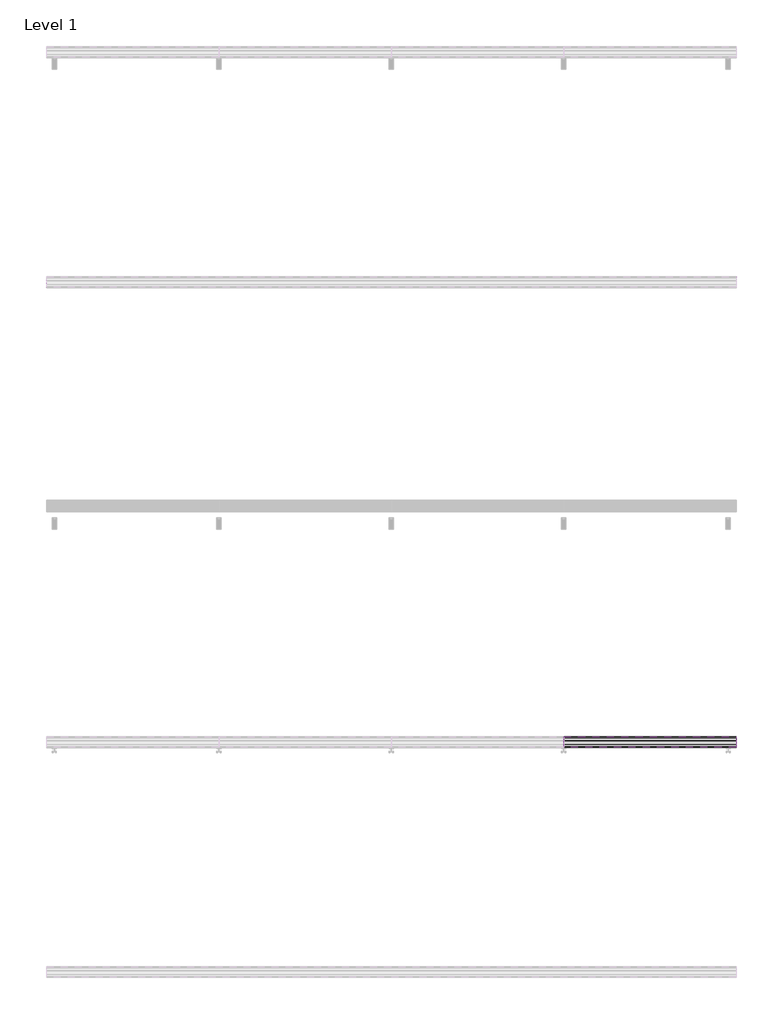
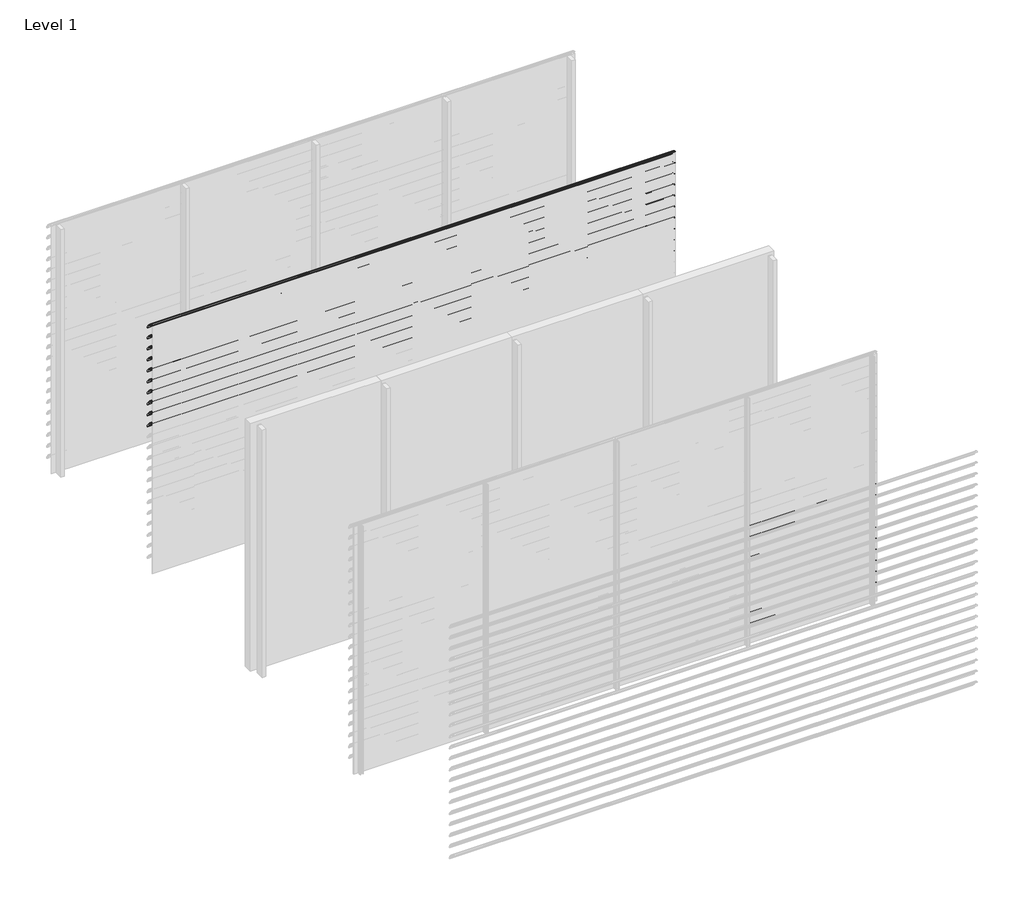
# One storey, part 19 of 57: 20 proxies.
"""IFC4 building model written with IfcOpenShell, lengths in millimetres."""

from ifc_helpers import new_model, si_unit, point, frame, frame_2d, origin, place, context, project, spatial, polyline, circle_curve, trimmed, segment, composite_curve, outline, extrude, element, save

model = new_model("IFC4")

# Units and contexts
model_context = context("Model", 3, world=origin())
ifc_project = project(units=[si_unit("LENGTHUNIT", "METRE", prefix="MILLI")], contexts=[model_context])

# Site, building, storey
site = spatial("IfcSite", under=ifc_project)
building = spatial("IfcBuilding", under=site)
storey = spatial("IfcBuildingStorey", under=building, Name="Level 1", Elevation=0.0)

# Proxies
placement = place(None, origin())
element("IfcBuildingElementProxy", 1, Name="Wall Sweeps", at=placement, inside=storey, context=model_context, shape_type="SweptSolid", body=[
    extrude(outline(composite_curve([segment(trimmed(circle_curve(frame_2d((-37993.7822526, 3016.4913792)), 4.2177474), [point((-37989.6985606, 3017.5462976))], [point((-37993.7822526, 3020.7091266))], False, "CARTESIAN"), True, "CONTINUOUS"), segment(trimmed(circle_curve(frame_2d((-38018.7150834, 2918.2536312)), 105.4456002), [point((-37993.7822526, 3020.7091266))], [point((-37971.7914298, 3012.6832099))], False, "CARTESIAN"), True, "CONTINUOUS"), segment(trimmed(circle_curve(frame_2d((-38061.7199745, 2864.0352476)), 173.7335887), [point((-37971.7914298, 3012.6832099))], [point((-37913.0720121, 2953.9637922))], False, "CARTESIAN"), True, "CONTINUOUS"), segment(trimmed(circle_curve(frame_2d((-38004.9297178, 2902.1860314)), 105.4456002), [point((-37913.0720121, 2953.9637922))], [point((-37903.6249616, 2931.4455765))], False, "CARTESIAN"), True, "CONTINUOUS"), segment(trimmed(circle_curve(frame_2d((-37907.809737, 2930.3307305)), 4.3307305), [point((-37903.6249616, 2931.4455765))], [point((-37909.0769196, 2926.189538))], False, "CARTESIAN"), True, "CONTINUOUS"), segment(polyline([(-37909.0769196, 2926.189538), (-37934.7401984, 2950.9722783)]), True, "CONTINUOUS"), segment(trimmed(circle_curve(frame_2d((-37931.3879574, 2953.2977626)), 4.079877), [point((-37934.7401984, 2950.9722783))], [point((-37930.7310597, 2957.3244091))], False, "CARTESIAN"), True, "CONTINUOUS"), segment(trimmed(circle_curve(frame_2d((-38014.6665585, 2935.2544323)), 86.7885467), [point((-37930.7310597, 2957.3244091))], [point((-37942.3028351, 2983.1683485))], True, "CARTESIAN"), True, "CONTINUOUS"), segment(polyline([(-37942.3028351, 2983.1683485), (-37940.7230099, 2985.9046861)]), True, "CONTINUOUS"), segment(trimmed(circle_curve(frame_2d((-38061.7199745, 2864.0352476)), 171.7335887), [point((-37940.7230099, 2985.9046861))], [point((-37972.7555872, 3010.9289618))], True, "CARTESIAN"), True, "CONTINUOUS"), segment(trimmed(circle_curve(frame_2d((-38018.7150834, 2918.2536312)), 103.4456002), [point((-37972.7555872, 3010.9289618))], [point((-37989.6985606, 3017.5462976))], True, "CARTESIAN"), True, "CONTINUOUS")], self_intersect=False)), frame((0.0, 0.0, 0.0), z_axis=(1.0, 0.0, 0.0), x_axis=(0.0, 1.0, 0.0)), (0.0, 0.0, 1.0), 6000.0),
])
element("IfcBuildingElementProxy", 2, Name="Wall Sweeps", at=placement, inside=storey, context=model_context, shape_type="SweptSolid", body=[
    extrude(outline(composite_curve([segment(trimmed(circle_curve(frame_2d((-37993.7822526, 2883.4913792)), 4.2177474), [point((-37989.6985606, 2884.5462976))], [point((-37993.7822526, 2887.7091266))], False, "CARTESIAN"), True, "CONTINUOUS"), segment(trimmed(circle_curve(frame_2d((-38018.7150834, 2785.2536312)), 105.4456002), [point((-37993.7822526, 2887.7091266))], [point((-37971.7914298, 2879.6832099))], False, "CARTESIAN"), True, "CONTINUOUS"), segment(trimmed(circle_curve(frame_2d((-38061.7199745, 2731.0352476)), 173.7335887), [point((-37971.7914298, 2879.6832099))], [point((-37913.0720121, 2820.9637922))], False, "CARTESIAN"), True, "CONTINUOUS"), segment(trimmed(circle_curve(frame_2d((-38004.9297178, 2769.1860314)), 105.4456002), [point((-37913.0720121, 2820.9637922))], [point((-37903.6249616, 2798.4455765))], False, "CARTESIAN"), True, "CONTINUOUS"), segment(trimmed(circle_curve(frame_2d((-37907.809737, 2797.3307305)), 4.3307305), [point((-37903.6249616, 2798.4455765))], [point((-37909.0769196, 2793.189538))], False, "CARTESIAN"), True, "CONTINUOUS"), segment(polyline([(-37909.0769196, 2793.189538), (-37934.7401984, 2817.9722783)]), True, "CONTINUOUS"), segment(trimmed(circle_curve(frame_2d((-37931.3879574, 2820.2977626)), 4.079877), [point((-37934.7401984, 2817.9722783))], [point((-37930.7310597, 2824.3244091))], False, "CARTESIAN"), True, "CONTINUOUS"), segment(trimmed(circle_curve(frame_2d((-38014.6665585, 2802.2544323)), 86.7885467), [point((-37930.7310597, 2824.3244091))], [point((-37942.3028351, 2850.1683485))], True, "CARTESIAN"), True, "CONTINUOUS"), segment(polyline([(-37942.3028351, 2850.1683485), (-37940.7230099, 2852.9046861)]), True, "CONTINUOUS"), segment(trimmed(circle_curve(frame_2d((-38061.7199745, 2731.0352476)), 171.7335887), [point((-37940.7230099, 2852.9046861))], [point((-37972.7555872, 2877.9289618))], True, "CARTESIAN"), True, "CONTINUOUS"), segment(trimmed(circle_curve(frame_2d((-38018.7150834, 2785.2536312)), 103.4456002), [point((-37972.7555872, 2877.9289618))], [point((-37989.6985606, 2884.5462976))], True, "CARTESIAN"), True, "CONTINUOUS")], self_intersect=False)), frame((0.0, 0.0, 0.0), z_axis=(1.0, 0.0, 0.0), x_axis=(0.0, 1.0, 0.0)), (0.0, 0.0, 1.0), 6000.0),
])
element("IfcBuildingElementProxy", 3, Name="Wall Sweeps", at=placement, inside=storey, context=model_context, shape_type="SweptSolid", body=[
    extrude(outline(composite_curve([segment(trimmed(circle_curve(frame_2d((-37993.7822526, 2750.4913792)), 4.2177474), [point((-37989.6985606, 2751.5462976))], [point((-37993.7822526, 2754.7091266))], False, "CARTESIAN"), True, "CONTINUOUS"), segment(trimmed(circle_curve(frame_2d((-38018.7150834, 2652.2536312)), 105.4456002), [point((-37993.7822526, 2754.7091266))], [point((-37971.7914298, 2746.6832099))], False, "CARTESIAN"), True, "CONTINUOUS"), segment(trimmed(circle_curve(frame_2d((-38061.7199745, 2598.0352476)), 173.7335887), [point((-37971.7914298, 2746.6832099))], [point((-37913.0720121, 2687.9637922))], False, "CARTESIAN"), True, "CONTINUOUS"), segment(trimmed(circle_curve(frame_2d((-38004.9297178, 2636.1860314)), 105.4456002), [point((-37913.0720121, 2687.9637922))], [point((-37903.6249616, 2665.4455765))], False, "CARTESIAN"), True, "CONTINUOUS"), segment(trimmed(circle_curve(frame_2d((-37907.809737, 2664.3307305)), 4.3307305), [point((-37903.6249616, 2665.4455765))], [point((-37909.0769196, 2660.189538))], False, "CARTESIAN"), True, "CONTINUOUS"), segment(polyline([(-37909.0769196, 2660.189538), (-37934.7401984, 2684.9722783)]), True, "CONTINUOUS"), segment(trimmed(circle_curve(frame_2d((-37931.3879574, 2687.2977626)), 4.079877), [point((-37934.7401984, 2684.9722783))], [point((-37930.7310597, 2691.3244091))], False, "CARTESIAN"), True, "CONTINUOUS"), segment(trimmed(circle_curve(frame_2d((-38014.6665585, 2669.2544323)), 86.7885467), [point((-37930.7310597, 2691.3244091))], [point((-37942.3028351, 2717.1683485))], True, "CARTESIAN"), True, "CONTINUOUS"), segment(polyline([(-37942.3028351, 2717.1683485), (-37940.7230099, 2719.9046861)]), True, "CONTINUOUS"), segment(trimmed(circle_curve(frame_2d((-38061.7199745, 2598.0352476)), 171.7335887), [point((-37940.7230099, 2719.9046861))], [point((-37972.7555872, 2744.9289618))], True, "CARTESIAN"), True, "CONTINUOUS"), segment(trimmed(circle_curve(frame_2d((-38018.7150834, 2652.2536312)), 103.4456002), [point((-37972.7555872, 2744.9289618))], [point((-37989.6985606, 2751.5462976))], True, "CARTESIAN"), True, "CONTINUOUS")], self_intersect=False)), frame((0.0, 0.0, 0.0), z_axis=(1.0, 0.0, 0.0), x_axis=(0.0, 1.0, 0.0)), (0.0, 0.0, 1.0), 6000.0),
])
element("IfcBuildingElementProxy", 4, Name="Wall Sweeps", at=placement, inside=storey, context=model_context, shape_type="SweptSolid", body=[
    extrude(outline(composite_curve([segment(trimmed(circle_curve(frame_2d((-37993.7822526, 2617.4913792)), 4.2177474), [point((-37989.6985606, 2618.5462976))], [point((-37993.7822526, 2621.7091266))], False, "CARTESIAN"), True, "CONTINUOUS"), segment(trimmed(circle_curve(frame_2d((-38018.7150834, 2519.2536312)), 105.4456002), [point((-37993.7822526, 2621.7091266))], [point((-37971.7914298, 2613.6832099))], False, "CARTESIAN"), True, "CONTINUOUS"), segment(trimmed(circle_curve(frame_2d((-38061.7199745, 2465.0352476)), 173.7335887), [point((-37971.7914298, 2613.6832099))], [point((-37913.0720121, 2554.9637922))], False, "CARTESIAN"), True, "CONTINUOUS"), segment(trimmed(circle_curve(frame_2d((-38004.9297178, 2503.1860314)), 105.4456002), [point((-37913.0720121, 2554.9637922))], [point((-37903.6249616, 2532.4455765))], False, "CARTESIAN"), True, "CONTINUOUS"), segment(trimmed(circle_curve(frame_2d((-37907.809737, 2531.3307305)), 4.3307305), [point((-37903.6249616, 2532.4455765))], [point((-37909.0769196, 2527.189538))], False, "CARTESIAN"), True, "CONTINUOUS"), segment(polyline([(-37909.0769196, 2527.189538), (-37934.7401984, 2551.9722783)]), True, "CONTINUOUS"), segment(trimmed(circle_curve(frame_2d((-37931.3879574, 2554.2977626)), 4.079877), [point((-37934.7401984, 2551.9722783))], [point((-37930.7310597, 2558.3244091))], False, "CARTESIAN"), True, "CONTINUOUS"), segment(trimmed(circle_curve(frame_2d((-38014.6665585, 2536.2544323)), 86.7885467), [point((-37930.7310597, 2558.3244091))], [point((-37942.3028351, 2584.1683485))], True, "CARTESIAN"), True, "CONTINUOUS"), segment(polyline([(-37942.3028351, 2584.1683485), (-37940.7230099, 2586.9046861)]), True, "CONTINUOUS"), segment(trimmed(circle_curve(frame_2d((-38061.7199745, 2465.0352476)), 171.7335887), [point((-37940.7230099, 2586.9046861))], [point((-37972.7555872, 2611.9289618))], True, "CARTESIAN"), True, "CONTINUOUS"), segment(trimmed(circle_curve(frame_2d((-38018.7150834, 2519.2536312)), 103.4456002), [point((-37972.7555872, 2611.9289618))], [point((-37989.6985606, 2618.5462976))], True, "CARTESIAN"), True, "CONTINUOUS")], self_intersect=False)), frame((0.0, 0.0, 0.0), z_axis=(1.0, 0.0, 0.0), x_axis=(0.0, 1.0, 0.0)), (0.0, 0.0, 1.0), 6000.0),
])
element("IfcBuildingElementProxy", 5, Name="Wall Sweeps", at=placement, inside=storey, context=model_context, shape_type="SweptSolid", body=[
    extrude(outline(composite_curve([segment(trimmed(circle_curve(frame_2d((-37993.7822526, 2484.4913792)), 4.2177474), [point((-37989.6985606, 2485.5462976))], [point((-37993.7822526, 2488.7091266))], False, "CARTESIAN"), True, "CONTINUOUS"), segment(trimmed(circle_curve(frame_2d((-38018.7150834, 2386.2536312)), 105.4456002), [point((-37993.7822526, 2488.7091266))], [point((-37971.7914298, 2480.6832099))], False, "CARTESIAN"), True, "CONTINUOUS"), segment(trimmed(circle_curve(frame_2d((-38061.7199745, 2332.0352476)), 173.7335887), [point((-37971.7914298, 2480.6832099))], [point((-37913.0720121, 2421.9637922))], False, "CARTESIAN"), True, "CONTINUOUS"), segment(trimmed(circle_curve(frame_2d((-38004.9297178, 2370.1860314)), 105.4456002), [point((-37913.0720121, 2421.9637922))], [point((-37903.6249616, 2399.4455765))], False, "CARTESIAN"), True, "CONTINUOUS"), segment(trimmed(circle_curve(frame_2d((-37907.809737, 2398.3307305)), 4.3307305), [point((-37903.6249616, 2399.4455765))], [point((-37909.0769196, 2394.189538))], False, "CARTESIAN"), True, "CONTINUOUS"), segment(polyline([(-37909.0769196, 2394.189538), (-37934.7401984, 2418.9722783)]), True, "CONTINUOUS"), segment(trimmed(circle_curve(frame_2d((-37931.3879574, 2421.2977626)), 4.079877), [point((-37934.7401984, 2418.9722783))], [point((-37930.7310597, 2425.3244091))], False, "CARTESIAN"), True, "CONTINUOUS"), segment(trimmed(circle_curve(frame_2d((-38014.6665585, 2403.2544323)), 86.7885467), [point((-37930.7310597, 2425.3244091))], [point((-37942.3028351, 2451.1683485))], True, "CARTESIAN"), True, "CONTINUOUS"), segment(polyline([(-37942.3028351, 2451.1683485), (-37940.7230099, 2453.9046861)]), True, "CONTINUOUS"), segment(trimmed(circle_curve(frame_2d((-38061.7199745, 2332.0352476)), 171.7335887), [point((-37940.7230099, 2453.9046861))], [point((-37972.7555872, 2478.9289618))], True, "CARTESIAN"), True, "CONTINUOUS"), segment(trimmed(circle_curve(frame_2d((-38018.7150834, 2386.2536312)), 103.4456002), [point((-37972.7555872, 2478.9289618))], [point((-37989.6985606, 2485.5462976))], True, "CARTESIAN"), True, "CONTINUOUS")], self_intersect=False)), frame((0.0, 0.0, 0.0), z_axis=(1.0, 0.0, 0.0), x_axis=(0.0, 1.0, 0.0)), (0.0, 0.0, 1.0), 6000.0),
])
element("IfcBuildingElementProxy", 6, Name="Wall Sweeps", at=placement, inside=storey, context=model_context, shape_type="SweptSolid", body=[
    extrude(outline(composite_curve([segment(trimmed(circle_curve(frame_2d((-37993.7822526, 2351.4913792)), 4.2177474), [point((-37989.6985606, 2352.5462976))], [point((-37993.7822526, 2355.7091266))], False, "CARTESIAN"), True, "CONTINUOUS"), segment(trimmed(circle_curve(frame_2d((-38018.7150834, 2253.2536312)), 105.4456002), [point((-37993.7822526, 2355.7091266))], [point((-37971.7914298, 2347.6832099))], False, "CARTESIAN"), True, "CONTINUOUS"), segment(trimmed(circle_curve(frame_2d((-38061.7199745, 2199.0352476)), 173.7335887), [point((-37971.7914298, 2347.6832099))], [point((-37913.0720121, 2288.9637922))], False, "CARTESIAN"), True, "CONTINUOUS"), segment(trimmed(circle_curve(frame_2d((-38004.9297178, 2237.1860314)), 105.4456002), [point((-37913.0720121, 2288.9637922))], [point((-37903.6249616, 2266.4455765))], False, "CARTESIAN"), True, "CONTINUOUS"), segment(trimmed(circle_curve(frame_2d((-37907.809737, 2265.3307305)), 4.3307305), [point((-37903.6249616, 2266.4455765))], [point((-37909.0769196, 2261.189538))], False, "CARTESIAN"), True, "CONTINUOUS"), segment(polyline([(-37909.0769196, 2261.189538), (-37934.7401984, 2285.9722783)]), True, "CONTINUOUS"), segment(trimmed(circle_curve(frame_2d((-37931.3879574, 2288.2977626)), 4.079877), [point((-37934.7401984, 2285.9722783))], [point((-37930.7310597, 2292.3244091))], False, "CARTESIAN"), True, "CONTINUOUS"), segment(trimmed(circle_curve(frame_2d((-38014.6665585, 2270.2544323)), 86.7885467), [point((-37930.7310597, 2292.3244091))], [point((-37942.3028351, 2318.1683485))], True, "CARTESIAN"), True, "CONTINUOUS"), segment(polyline([(-37942.3028351, 2318.1683485), (-37940.7230099, 2320.9046861)]), True, "CONTINUOUS"), segment(trimmed(circle_curve(frame_2d((-38061.7199745, 2199.0352476)), 171.7335887), [point((-37940.7230099, 2320.9046861))], [point((-37972.7555872, 2345.9289618))], True, "CARTESIAN"), True, "CONTINUOUS"), segment(trimmed(circle_curve(frame_2d((-38018.7150834, 2253.2536312)), 103.4456002), [point((-37972.7555872, 2345.9289618))], [point((-37989.6985606, 2352.5462976))], True, "CARTESIAN"), True, "CONTINUOUS")], self_intersect=False)), frame((0.0, 0.0, 0.0), z_axis=(1.0, 0.0, 0.0), x_axis=(0.0, 1.0, 0.0)), (0.0, 0.0, 1.0), 6000.0),
])
element("IfcBuildingElementProxy", 7, Name="Wall Sweeps", at=placement, inside=storey, context=model_context, shape_type="SweptSolid", body=[
    extrude(outline(composite_curve([segment(trimmed(circle_curve(frame_2d((-37993.7822526, 2218.4913792)), 4.2177474), [point((-37989.6985606, 2219.5462976))], [point((-37993.7822526, 2222.7091266))], False, "CARTESIAN"), True, "CONTINUOUS"), segment(trimmed(circle_curve(frame_2d((-38018.7150834, 2120.2536312)), 105.4456002), [point((-37993.7822526, 2222.7091266))], [point((-37971.7914298, 2214.6832099))], False, "CARTESIAN"), True, "CONTINUOUS"), segment(trimmed(circle_curve(frame_2d((-38061.7199745, 2066.0352476)), 173.7335887), [point((-37971.7914298, 2214.6832099))], [point((-37913.0720121, 2155.9637922))], False, "CARTESIAN"), True, "CONTINUOUS"), segment(trimmed(circle_curve(frame_2d((-38004.9297178, 2104.1860314)), 105.4456002), [point((-37913.0720121, 2155.9637922))], [point((-37903.6249616, 2133.4455765))], False, "CARTESIAN"), True, "CONTINUOUS"), segment(trimmed(circle_curve(frame_2d((-37907.809737, 2132.3307305)), 4.3307305), [point((-37903.6249616, 2133.4455765))], [point((-37909.0769196, 2128.189538))], False, "CARTESIAN"), True, "CONTINUOUS"), segment(polyline([(-37909.0769196, 2128.189538), (-37934.7401984, 2152.9722783)]), True, "CONTINUOUS"), segment(trimmed(circle_curve(frame_2d((-37931.3879574, 2155.2977626)), 4.079877), [point((-37934.7401984, 2152.9722783))], [point((-37930.7310597, 2159.3244091))], False, "CARTESIAN"), True, "CONTINUOUS"), segment(trimmed(circle_curve(frame_2d((-38014.6665585, 2137.2544323)), 86.7885467), [point((-37930.7310597, 2159.3244091))], [point((-37942.3028351, 2185.1683485))], True, "CARTESIAN"), True, "CONTINUOUS"), segment(polyline([(-37942.3028351, 2185.1683485), (-37940.7230099, 2187.9046861)]), True, "CONTINUOUS"), segment(trimmed(circle_curve(frame_2d((-38061.7199745, 2066.0352476)), 171.7335887), [point((-37940.7230099, 2187.9046861))], [point((-37972.7555872, 2212.9289618))], True, "CARTESIAN"), True, "CONTINUOUS"), segment(trimmed(circle_curve(frame_2d((-38018.7150834, 2120.2536312)), 103.4456002), [point((-37972.7555872, 2212.9289618))], [point((-37989.6985606, 2219.5462976))], True, "CARTESIAN"), True, "CONTINUOUS")], self_intersect=False)), frame((0.0, 0.0, 0.0), z_axis=(1.0, 0.0, 0.0), x_axis=(0.0, 1.0, 0.0)), (0.0, 0.0, 1.0), 6000.0),
])
element("IfcBuildingElementProxy", 8, Name="Wall Sweeps", at=placement, inside=storey, context=model_context, shape_type="SweptSolid", body=[
    extrude(outline(composite_curve([segment(trimmed(circle_curve(frame_2d((-37993.7822526, 2085.4913792)), 4.2177474), [point((-37989.6985606, 2086.5462976))], [point((-37993.7822526, 2089.7091266))], False, "CARTESIAN"), True, "CONTINUOUS"), segment(trimmed(circle_curve(frame_2d((-38018.7150834, 1987.2536312)), 105.4456002), [point((-37993.7822526, 2089.7091266))], [point((-37971.7914298, 2081.6832099))], False, "CARTESIAN"), True, "CONTINUOUS"), segment(trimmed(circle_curve(frame_2d((-38061.7199745, 1933.0352476)), 173.7335887), [point((-37971.7914298, 2081.6832099))], [point((-37913.0720121, 2022.9637922))], False, "CARTESIAN"), True, "CONTINUOUS"), segment(trimmed(circle_curve(frame_2d((-38004.9297178, 1971.1860314)), 105.4456002), [point((-37913.0720121, 2022.9637922))], [point((-37903.6249616, 2000.4455765))], False, "CARTESIAN"), True, "CONTINUOUS"), segment(trimmed(circle_curve(frame_2d((-37907.809737, 1999.3307305)), 4.3307305), [point((-37903.6249616, 2000.4455765))], [point((-37909.0769196, 1995.189538))], False, "CARTESIAN"), True, "CONTINUOUS"), segment(polyline([(-37909.0769196, 1995.189538), (-37934.7401984, 2019.9722783)]), True, "CONTINUOUS"), segment(trimmed(circle_curve(frame_2d((-37931.3879574, 2022.2977626)), 4.079877), [point((-37934.7401984, 2019.9722783))], [point((-37930.7310597, 2026.3244091))], False, "CARTESIAN"), True, "CONTINUOUS"), segment(trimmed(circle_curve(frame_2d((-38014.6665585, 2004.2544323)), 86.7885467), [point((-37930.7310597, 2026.3244091))], [point((-37942.3028351, 2052.1683485))], True, "CARTESIAN"), True, "CONTINUOUS"), segment(polyline([(-37942.3028351, 2052.1683485), (-37940.7230099, 2054.9046861)]), True, "CONTINUOUS"), segment(trimmed(circle_curve(frame_2d((-38061.7199745, 1933.0352476)), 171.7335887), [point((-37940.7230099, 2054.9046861))], [point((-37972.7555872, 2079.9289618))], True, "CARTESIAN"), True, "CONTINUOUS"), segment(trimmed(circle_curve(frame_2d((-38018.7150834, 1987.2536312)), 103.4456002), [point((-37972.7555872, 2079.9289618))], [point((-37989.6985606, 2086.5462976))], True, "CARTESIAN"), True, "CONTINUOUS")], self_intersect=False)), frame((0.0, 0.0, 0.0), z_axis=(1.0, 0.0, 0.0), x_axis=(0.0, 1.0, 0.0)), (0.0, 0.0, 1.0), 6000.0),
])
element("IfcBuildingElementProxy", 9, Name="Wall Sweeps", at=placement, inside=storey, context=model_context, shape_type="SweptSolid", body=[
    extrude(outline(composite_curve([segment(trimmed(circle_curve(frame_2d((-37993.7822526, 1952.4913792)), 4.2177474), [point((-37989.6985606, 1953.5462976))], [point((-37993.7822526, 1956.7091266))], False, "CARTESIAN"), True, "CONTINUOUS"), segment(trimmed(circle_curve(frame_2d((-38018.7150834, 1854.2536312)), 105.4456002), [point((-37993.7822526, 1956.7091266))], [point((-37971.7914298, 1948.6832099))], False, "CARTESIAN"), True, "CONTINUOUS"), segment(trimmed(circle_curve(frame_2d((-38061.7199745, 1800.0352476)), 173.7335887), [point((-37971.7914298, 1948.6832099))], [point((-37913.0720121, 1889.9637922))], False, "CARTESIAN"), True, "CONTINUOUS"), segment(trimmed(circle_curve(frame_2d((-38004.9297178, 1838.1860314)), 105.4456002), [point((-37913.0720121, 1889.9637922))], [point((-37903.6249616, 1867.4455765))], False, "CARTESIAN"), True, "CONTINUOUS"), segment(trimmed(circle_curve(frame_2d((-37907.809737, 1866.3307305)), 4.3307305), [point((-37903.6249616, 1867.4455765))], [point((-37909.0769196, 1862.189538))], False, "CARTESIAN"), True, "CONTINUOUS"), segment(polyline([(-37909.0769196, 1862.189538), (-37934.7401984, 1886.9722783)]), True, "CONTINUOUS"), segment(trimmed(circle_curve(frame_2d((-37931.3879574, 1889.2977626)), 4.079877), [point((-37934.7401984, 1886.9722783))], [point((-37930.7310597, 1893.3244091))], False, "CARTESIAN"), True, "CONTINUOUS"), segment(trimmed(circle_curve(frame_2d((-38014.6665585, 1871.2544323)), 86.7885467), [point((-37930.7310597, 1893.3244091))], [point((-37942.3028351, 1919.1683485))], True, "CARTESIAN"), True, "CONTINUOUS"), segment(polyline([(-37942.3028351, 1919.1683485), (-37940.7230099, 1921.9046861)]), True, "CONTINUOUS"), segment(trimmed(circle_curve(frame_2d((-38061.7199745, 1800.0352476)), 171.7335887), [point((-37940.7230099, 1921.9046861))], [point((-37972.7555872, 1946.9289618))], True, "CARTESIAN"), True, "CONTINUOUS"), segment(trimmed(circle_curve(frame_2d((-38018.7150834, 1854.2536312)), 103.4456002), [point((-37972.7555872, 1946.9289618))], [point((-37989.6985606, 1953.5462976))], True, "CARTESIAN"), True, "CONTINUOUS")], self_intersect=False)), frame((0.0, 0.0, 0.0), z_axis=(1.0, 0.0, 0.0), x_axis=(0.0, 1.0, 0.0)), (0.0, 0.0, 1.0), 6000.0),
])
element("IfcBuildingElementProxy", 10, Name="Wall Sweeps", at=placement, inside=storey, context=model_context, shape_type="SweptSolid", body=[
    extrude(outline(composite_curve([segment(trimmed(circle_curve(frame_2d((-37993.7822526, 1819.4913792)), 4.2177474), [point((-37989.6985606, 1820.5462976))], [point((-37993.7822526, 1823.7091266))], False, "CARTESIAN"), True, "CONTINUOUS"), segment(trimmed(circle_curve(frame_2d((-38018.7150834, 1721.2536312)), 105.4456002), [point((-37993.7822526, 1823.7091266))], [point((-37971.7914298, 1815.6832099))], False, "CARTESIAN"), True, "CONTINUOUS"), segment(trimmed(circle_curve(frame_2d((-38061.7199745, 1667.0352476)), 173.7335887), [point((-37971.7914298, 1815.6832099))], [point((-37913.0720121, 1756.9637922))], False, "CARTESIAN"), True, "CONTINUOUS"), segment(trimmed(circle_curve(frame_2d((-38004.9297178, 1705.1860314)), 105.4456002), [point((-37913.0720121, 1756.9637922))], [point((-37903.6249616, 1734.4455765))], False, "CARTESIAN"), True, "CONTINUOUS"), segment(trimmed(circle_curve(frame_2d((-37907.809737, 1733.3307305)), 4.3307305), [point((-37903.6249616, 1734.4455765))], [point((-37909.0769196, 1729.189538))], False, "CARTESIAN"), True, "CONTINUOUS"), segment(polyline([(-37909.0769196, 1729.189538), (-37934.7401984, 1753.9722783)]), True, "CONTINUOUS"), segment(trimmed(circle_curve(frame_2d((-37931.3879574, 1756.2977626)), 4.079877), [point((-37934.7401984, 1753.9722783))], [point((-37930.7310597, 1760.3244091))], False, "CARTESIAN"), True, "CONTINUOUS"), segment(trimmed(circle_curve(frame_2d((-38014.6665585, 1738.2544323)), 86.7885467), [point((-37930.7310597, 1760.3244091))], [point((-37942.3028351, 1786.1683485))], True, "CARTESIAN"), True, "CONTINUOUS"), segment(polyline([(-37942.3028351, 1786.1683485), (-37940.7230099, 1788.9046861)]), True, "CONTINUOUS"), segment(trimmed(circle_curve(frame_2d((-38061.7199745, 1667.0352476)), 171.7335887), [point((-37940.7230099, 1788.9046861))], [point((-37972.7555872, 1813.9289618))], True, "CARTESIAN"), True, "CONTINUOUS"), segment(trimmed(circle_curve(frame_2d((-38018.7150834, 1721.2536312)), 103.4456002), [point((-37972.7555872, 1813.9289618))], [point((-37989.6985606, 1820.5462976))], True, "CARTESIAN"), True, "CONTINUOUS")], self_intersect=False)), frame((0.0, 0.0, 0.0), z_axis=(1.0, 0.0, 0.0), x_axis=(0.0, 1.0, 0.0)), (0.0, 0.0, 1.0), 6000.0),
])
element("IfcBuildingElementProxy", 11, Name="Wall Sweeps", at=placement, inside=storey, context=model_context, shape_type="SweptSolid", body=[
    extrude(outline(composite_curve([segment(trimmed(circle_curve(frame_2d((-41993.7822526, 1420.4913792)), 4.2177474), [point((-41989.6985606, 1421.5462976))], [point((-41993.7822526, 1424.7091266))], False, "CARTESIAN"), True, "CONTINUOUS"), segment(trimmed(circle_curve(frame_2d((-42018.7150834, 1322.2536312)), 105.4456002), [point((-41993.7822526, 1424.7091266))], [point((-41971.7914298, 1416.6832099))], False, "CARTESIAN"), True, "CONTINUOUS"), segment(trimmed(circle_curve(frame_2d((-42061.7199745, 1268.0352476)), 173.7335887), [point((-41971.7914298, 1416.6832099))], [point((-41913.0720121, 1357.9637922))], False, "CARTESIAN"), True, "CONTINUOUS"), segment(trimmed(circle_curve(frame_2d((-42004.9297178, 1306.1860314)), 105.4456002), [point((-41913.0720121, 1357.9637922))], [point((-41903.6249616, 1335.4455765))], False, "CARTESIAN"), True, "CONTINUOUS"), segment(trimmed(circle_curve(frame_2d((-41907.809737, 1334.3307305)), 4.3307305), [point((-41903.6249616, 1335.4455765))], [point((-41909.0769196, 1330.189538))], False, "CARTESIAN"), True, "CONTINUOUS"), segment(polyline([(-41909.0769196, 1330.189538), (-41934.7401984, 1354.9722783)]), True, "CONTINUOUS"), segment(trimmed(circle_curve(frame_2d((-41931.3879574, 1357.2977626)), 4.079877), [point((-41934.7401984, 1354.9722783))], [point((-41930.7310597, 1361.3244091))], False, "CARTESIAN"), True, "CONTINUOUS"), segment(trimmed(circle_curve(frame_2d((-42014.6665585, 1339.2544323)), 86.7885467), [point((-41930.7310597, 1361.3244091))], [point((-41942.3028351, 1387.1683485))], True, "CARTESIAN"), True, "CONTINUOUS"), segment(polyline([(-41942.3028351, 1387.1683485), (-41940.7230099, 1389.9046861)]), True, "CONTINUOUS"), segment(trimmed(circle_curve(frame_2d((-42061.7199745, 1268.0352476)), 171.7335887), [point((-41940.7230099, 1389.9046861))], [point((-41972.7555872, 1414.9289618))], True, "CARTESIAN"), True, "CONTINUOUS"), segment(trimmed(circle_curve(frame_2d((-42018.7150834, 1322.2536312)), 103.4456002), [point((-41972.7555872, 1414.9289618))], [point((-41989.6985606, 1421.5462976))], True, "CARTESIAN"), True, "CONTINUOUS")], self_intersect=False)), frame((4500.0, 0.0, 0.0), z_axis=(1.0, 0.0, 0.0), x_axis=(0.0, 1.0, 0.0)), (0.0, 0.0, 1.0), 1500.0),
])
element("IfcBuildingElementProxy", 12, Name="Wall Sweeps", at=placement, inside=storey, context=model_context, shape_type="SweptSolid", body=[
    extrude(outline(composite_curve([segment(trimmed(circle_curve(frame_2d((-41993.7822526, 1287.4913792)), 4.2177474), [point((-41989.6985606, 1288.5462976))], [point((-41993.7822526, 1291.7091266))], False, "CARTESIAN"), True, "CONTINUOUS"), segment(trimmed(circle_curve(frame_2d((-42018.7150834, 1189.2536312)), 105.4456002), [point((-41993.7822526, 1291.7091266))], [point((-41971.7914298, 1283.6832099))], False, "CARTESIAN"), True, "CONTINUOUS"), segment(trimmed(circle_curve(frame_2d((-42061.7199745, 1135.0352476)), 173.7335887), [point((-41971.7914298, 1283.6832099))], [point((-41913.0720121, 1224.9637922))], False, "CARTESIAN"), True, "CONTINUOUS"), segment(trimmed(circle_curve(frame_2d((-42004.9297178, 1173.1860314)), 105.4456002), [point((-41913.0720121, 1224.9637922))], [point((-41903.6249616, 1202.4455765))], False, "CARTESIAN"), True, "CONTINUOUS"), segment(trimmed(circle_curve(frame_2d((-41907.809737, 1201.3307305)), 4.3307305), [point((-41903.6249616, 1202.4455765))], [point((-41909.0769196, 1197.189538))], False, "CARTESIAN"), True, "CONTINUOUS"), segment(polyline([(-41909.0769196, 1197.189538), (-41934.7401984, 1221.9722783)]), True, "CONTINUOUS"), segment(trimmed(circle_curve(frame_2d((-41931.3879574, 1224.2977626)), 4.079877), [point((-41934.7401984, 1221.9722783))], [point((-41930.7310597, 1228.3244091))], False, "CARTESIAN"), True, "CONTINUOUS"), segment(trimmed(circle_curve(frame_2d((-42014.6665585, 1206.2544323)), 86.7885467), [point((-41930.7310597, 1228.3244091))], [point((-41942.3028351, 1254.1683485))], True, "CARTESIAN"), True, "CONTINUOUS"), segment(polyline([(-41942.3028351, 1254.1683485), (-41940.7230099, 1256.9046861)]), True, "CONTINUOUS"), segment(trimmed(circle_curve(frame_2d((-42061.7199745, 1135.0352476)), 171.7335887), [point((-41940.7230099, 1256.9046861))], [point((-41972.7555872, 1281.9289618))], True, "CARTESIAN"), True, "CONTINUOUS"), segment(trimmed(circle_curve(frame_2d((-42018.7150834, 1189.2536312)), 103.4456002), [point((-41972.7555872, 1281.9289618))], [point((-41989.6985606, 1288.5462976))], True, "CARTESIAN"), True, "CONTINUOUS")], self_intersect=False)), frame((4500.0, 0.0, 0.0), z_axis=(1.0, 0.0, 0.0), x_axis=(0.0, 1.0, 0.0)), (0.0, 0.0, 1.0), 1500.0),
])
element("IfcBuildingElementProxy", 13, Name="Wall Sweeps", at=placement, inside=storey, context=model_context, shape_type="SweptSolid", body=[
    extrude(outline(composite_curve([segment(trimmed(circle_curve(frame_2d((-41993.7822526, 1154.4913792)), 4.2177474), [point((-41989.6985606, 1155.5462976))], [point((-41993.7822526, 1158.7091266))], False, "CARTESIAN"), True, "CONTINUOUS"), segment(trimmed(circle_curve(frame_2d((-42018.7150834, 1056.2536312)), 105.4456002), [point((-41993.7822526, 1158.7091266))], [point((-41971.7914298, 1150.6832099))], False, "CARTESIAN"), True, "CONTINUOUS"), segment(trimmed(circle_curve(frame_2d((-42061.7199745, 1002.0352476)), 173.7335887), [point((-41971.7914298, 1150.6832099))], [point((-41913.0720121, 1091.9637922))], False, "CARTESIAN"), True, "CONTINUOUS"), segment(trimmed(circle_curve(frame_2d((-42004.9297178, 1040.1860314)), 105.4456002), [point((-41913.0720121, 1091.9637922))], [point((-41903.6249616, 1069.4455765))], False, "CARTESIAN"), True, "CONTINUOUS"), segment(trimmed(circle_curve(frame_2d((-41907.809737, 1068.3307305)), 4.3307305), [point((-41903.6249616, 1069.4455765))], [point((-41909.0769196, 1064.189538))], False, "CARTESIAN"), True, "CONTINUOUS"), segment(polyline([(-41909.0769196, 1064.189538), (-41934.7401984, 1088.9722783)]), True, "CONTINUOUS"), segment(trimmed(circle_curve(frame_2d((-41931.3879574, 1091.2977626)), 4.079877), [point((-41934.7401984, 1088.9722783))], [point((-41930.7310597, 1095.3244091))], False, "CARTESIAN"), True, "CONTINUOUS"), segment(trimmed(circle_curve(frame_2d((-42014.6665585, 1073.2544323)), 86.7885467), [point((-41930.7310597, 1095.3244091))], [point((-41942.3028351, 1121.1683485))], True, "CARTESIAN"), True, "CONTINUOUS"), segment(polyline([(-41942.3028351, 1121.1683485), (-41940.7230099, 1123.9046861)]), True, "CONTINUOUS"), segment(trimmed(circle_curve(frame_2d((-42061.7199745, 1002.0352476)), 171.7335887), [point((-41940.7230099, 1123.9046861))], [point((-41972.7555872, 1148.9289618))], True, "CARTESIAN"), True, "CONTINUOUS"), segment(trimmed(circle_curve(frame_2d((-42018.7150834, 1056.2536312)), 103.4456002), [point((-41972.7555872, 1148.9289618))], [point((-41989.6985606, 1155.5462976))], True, "CARTESIAN"), True, "CONTINUOUS")], self_intersect=False)), frame((4500.0, 0.0, 0.0), z_axis=(1.0, 0.0, 0.0), x_axis=(0.0, 1.0, 0.0)), (0.0, 0.0, 1.0), 1500.0),
])
element("IfcBuildingElementProxy", 14, Name="Wall Sweeps", at=placement, inside=storey, context=model_context, shape_type="SweptSolid", body=[
    extrude(outline(composite_curve([segment(trimmed(circle_curve(frame_2d((-41993.7822526, 1021.4913792)), 4.2177474), [point((-41989.6985606, 1022.5462976))], [point((-41993.7822526, 1025.7091266))], False, "CARTESIAN"), True, "CONTINUOUS"), segment(trimmed(circle_curve(frame_2d((-42018.7150834, 923.2536312)), 105.4456002), [point((-41993.7822526, 1025.7091266))], [point((-41971.7914298, 1017.6832099))], False, "CARTESIAN"), True, "CONTINUOUS"), segment(trimmed(circle_curve(frame_2d((-42061.7199745, 869.0352476)), 173.7335887), [point((-41971.7914298, 1017.6832099))], [point((-41913.0720121, 958.9637922))], False, "CARTESIAN"), True, "CONTINUOUS"), segment(trimmed(circle_curve(frame_2d((-42004.9297178, 907.1860314)), 105.4456002), [point((-41913.0720121, 958.9637922))], [point((-41903.6249616, 936.4455765))], False, "CARTESIAN"), True, "CONTINUOUS"), segment(trimmed(circle_curve(frame_2d((-41907.809737, 935.3307305)), 4.3307305), [point((-41903.6249616, 936.4455765))], [point((-41909.0769196, 931.189538))], False, "CARTESIAN"), True, "CONTINUOUS"), segment(polyline([(-41909.0769196, 931.189538), (-41934.7401984, 955.9722783)]), True, "CONTINUOUS"), segment(trimmed(circle_curve(frame_2d((-41931.3879574, 958.2977626)), 4.079877), [point((-41934.7401984, 955.9722783))], [point((-41930.7310597, 962.3244091))], False, "CARTESIAN"), True, "CONTINUOUS"), segment(trimmed(circle_curve(frame_2d((-42014.6665585, 940.2544323)), 86.7885467), [point((-41930.7310597, 962.3244091))], [point((-41942.3028351, 988.1683485))], True, "CARTESIAN"), True, "CONTINUOUS"), segment(polyline([(-41942.3028351, 988.1683485), (-41940.7230099, 990.9046861)]), True, "CONTINUOUS"), segment(trimmed(circle_curve(frame_2d((-42061.7199745, 869.0352476)), 171.7335887), [point((-41940.7230099, 990.9046861))], [point((-41972.7555872, 1015.9289618))], True, "CARTESIAN"), True, "CONTINUOUS"), segment(trimmed(circle_curve(frame_2d((-42018.7150834, 923.2536312)), 103.4456002), [point((-41972.7555872, 1015.9289618))], [point((-41989.6985606, 1022.5462976))], True, "CARTESIAN"), True, "CONTINUOUS")], self_intersect=False)), frame((4500.0, 0.0, 0.0), z_axis=(1.0, 0.0, 0.0), x_axis=(0.0, 1.0, 0.0)), (0.0, 0.0, 1.0), 1500.0),
])
element("IfcBuildingElementProxy", 15, Name="Wall Sweeps", at=placement, inside=storey, context=model_context, shape_type="SweptSolid", body=[
    extrude(outline(composite_curve([segment(trimmed(circle_curve(frame_2d((-41993.7822526, 888.4913792)), 4.2177474), [point((-41989.6985606, 889.5462976))], [point((-41993.7822526, 892.7091266))], False, "CARTESIAN"), True, "CONTINUOUS"), segment(trimmed(circle_curve(frame_2d((-42018.7150834, 790.2536312)), 105.4456002), [point((-41993.7822526, 892.7091266))], [point((-41971.7914298, 884.6832099))], False, "CARTESIAN"), True, "CONTINUOUS"), segment(trimmed(circle_curve(frame_2d((-42061.7199745, 736.0352476)), 173.7335887), [point((-41971.7914298, 884.6832099))], [point((-41913.0720121, 825.9637922))], False, "CARTESIAN"), True, "CONTINUOUS"), segment(trimmed(circle_curve(frame_2d((-42004.9297178, 774.1860314)), 105.4456002), [point((-41913.0720121, 825.9637922))], [point((-41903.6249616, 803.4455765))], False, "CARTESIAN"), True, "CONTINUOUS"), segment(trimmed(circle_curve(frame_2d((-41907.809737, 802.3307305)), 4.3307305), [point((-41903.6249616, 803.4455765))], [point((-41909.0769196, 798.189538))], False, "CARTESIAN"), True, "CONTINUOUS"), segment(polyline([(-41909.0769196, 798.189538), (-41934.7401984, 822.9722783)]), True, "CONTINUOUS"), segment(trimmed(circle_curve(frame_2d((-41931.3879574, 825.2977626)), 4.079877), [point((-41934.7401984, 822.9722783))], [point((-41930.7310597, 829.3244091))], False, "CARTESIAN"), True, "CONTINUOUS"), segment(trimmed(circle_curve(frame_2d((-42014.6665585, 807.2544323)), 86.7885467), [point((-41930.7310597, 829.3244091))], [point((-41942.3028351, 855.1683485))], True, "CARTESIAN"), True, "CONTINUOUS"), segment(polyline([(-41942.3028351, 855.1683485), (-41940.7230099, 857.9046861)]), True, "CONTINUOUS"), segment(trimmed(circle_curve(frame_2d((-42061.7199745, 736.0352476)), 171.7335887), [point((-41940.7230099, 857.9046861))], [point((-41972.7555872, 882.9289618))], True, "CARTESIAN"), True, "CONTINUOUS"), segment(trimmed(circle_curve(frame_2d((-42018.7150834, 790.2536312)), 103.4456002), [point((-41972.7555872, 882.9289618))], [point((-41989.6985606, 889.5462976))], True, "CARTESIAN"), True, "CONTINUOUS")], self_intersect=False)), frame((4500.0, 0.0, 0.0), z_axis=(1.0, 0.0, 0.0), x_axis=(0.0, 1.0, 0.0)), (0.0, 0.0, 1.0), 1500.0),
])
element("IfcBuildingElementProxy", 16, Name="Wall Sweeps", at=placement, inside=storey, context=model_context, shape_type="SweptSolid", body=[
    extrude(outline(composite_curve([segment(trimmed(circle_curve(frame_2d((-41993.7822526, 755.4913792)), 4.2177474), [point((-41989.6985606, 756.5462976))], [point((-41993.7822526, 759.7091266))], False, "CARTESIAN"), True, "CONTINUOUS"), segment(trimmed(circle_curve(frame_2d((-42018.7150834, 657.2536312)), 105.4456002), [point((-41993.7822526, 759.7091266))], [point((-41971.7914298, 751.6832099))], False, "CARTESIAN"), True, "CONTINUOUS"), segment(trimmed(circle_curve(frame_2d((-42061.7199745, 603.0352476)), 173.7335887), [point((-41971.7914298, 751.6832099))], [point((-41913.0720121, 692.9637922))], False, "CARTESIAN"), True, "CONTINUOUS"), segment(trimmed(circle_curve(frame_2d((-42004.9297178, 641.1860314)), 105.4456002), [point((-41913.0720121, 692.9637922))], [point((-41903.6249616, 670.4455765))], False, "CARTESIAN"), True, "CONTINUOUS"), segment(trimmed(circle_curve(frame_2d((-41907.809737, 669.3307305)), 4.3307305), [point((-41903.6249616, 670.4455765))], [point((-41909.0769196, 665.189538))], False, "CARTESIAN"), True, "CONTINUOUS"), segment(polyline([(-41909.0769196, 665.189538), (-41934.7401984, 689.9722783)]), True, "CONTINUOUS"), segment(trimmed(circle_curve(frame_2d((-41931.3879574, 692.2977626)), 4.079877), [point((-41934.7401984, 689.9722783))], [point((-41930.7310597, 696.3244091))], False, "CARTESIAN"), True, "CONTINUOUS"), segment(trimmed(circle_curve(frame_2d((-42014.6665585, 674.2544323)), 86.7885467), [point((-41930.7310597, 696.3244091))], [point((-41942.3028351, 722.1683485))], True, "CARTESIAN"), True, "CONTINUOUS"), segment(polyline([(-41942.3028351, 722.1683485), (-41940.7230099, 724.9046861)]), True, "CONTINUOUS"), segment(trimmed(circle_curve(frame_2d((-42061.7199745, 603.0352476)), 171.7335887), [point((-41940.7230099, 724.9046861))], [point((-41972.7555872, 749.9289618))], True, "CARTESIAN"), True, "CONTINUOUS"), segment(trimmed(circle_curve(frame_2d((-42018.7150834, 657.2536312)), 103.4456002), [point((-41972.7555872, 749.9289618))], [point((-41989.6985606, 756.5462976))], True, "CARTESIAN"), True, "CONTINUOUS")], self_intersect=False)), frame((4500.0, 0.0, 0.0), z_axis=(1.0, 0.0, 0.0), x_axis=(0.0, 1.0, 0.0)), (0.0, 0.0, 1.0), 1500.0),
])
element("IfcBuildingElementProxy", 17, Name="Wall Sweeps", at=placement, inside=storey, context=model_context, shape_type="SweptSolid", body=[
    extrude(outline(composite_curve([segment(trimmed(circle_curve(frame_2d((-41993.7822526, 622.4913792)), 4.2177474), [point((-41989.6985606, 623.5462976))], [point((-41993.7822526, 626.7091266))], False, "CARTESIAN"), True, "CONTINUOUS"), segment(trimmed(circle_curve(frame_2d((-42018.7150834, 524.2536312)), 105.4456002), [point((-41993.7822526, 626.7091266))], [point((-41971.7914298, 618.6832099))], False, "CARTESIAN"), True, "CONTINUOUS"), segment(trimmed(circle_curve(frame_2d((-42061.7199745, 470.0352476)), 173.7335887), [point((-41971.7914298, 618.6832099))], [point((-41913.0720121, 559.9637922))], False, "CARTESIAN"), True, "CONTINUOUS"), segment(trimmed(circle_curve(frame_2d((-42004.9297178, 508.1860314)), 105.4456002), [point((-41913.0720121, 559.9637922))], [point((-41903.6249616, 537.4455765))], False, "CARTESIAN"), True, "CONTINUOUS"), segment(trimmed(circle_curve(frame_2d((-41907.809737, 536.3307305)), 4.3307305), [point((-41903.6249616, 537.4455765))], [point((-41909.0769196, 532.189538))], False, "CARTESIAN"), True, "CONTINUOUS"), segment(polyline([(-41909.0769196, 532.189538), (-41934.7401984, 556.9722783)]), True, "CONTINUOUS"), segment(trimmed(circle_curve(frame_2d((-41931.3879574, 559.2977626)), 4.079877), [point((-41934.7401984, 556.9722783))], [point((-41930.7310597, 563.3244091))], False, "CARTESIAN"), True, "CONTINUOUS"), segment(trimmed(circle_curve(frame_2d((-42014.6665585, 541.2544323)), 86.7885467), [point((-41930.7310597, 563.3244091))], [point((-41942.3028351, 589.1683485))], True, "CARTESIAN"), True, "CONTINUOUS"), segment(polyline([(-41942.3028351, 589.1683485), (-41940.7230099, 591.9046861)]), True, "CONTINUOUS"), segment(trimmed(circle_curve(frame_2d((-42061.7199745, 470.0352476)), 171.7335887), [point((-41940.7230099, 591.9046861))], [point((-41972.7555872, 616.9289618))], True, "CARTESIAN"), True, "CONTINUOUS"), segment(trimmed(circle_curve(frame_2d((-42018.7150834, 524.2536312)), 103.4456002), [point((-41972.7555872, 616.9289618))], [point((-41989.6985606, 623.5462976))], True, "CARTESIAN"), True, "CONTINUOUS")], self_intersect=False)), frame((4500.0, 0.0, 0.0), z_axis=(1.0, 0.0, 0.0), x_axis=(0.0, 1.0, 0.0)), (0.0, 0.0, 1.0), 1500.0),
])
element("IfcBuildingElementProxy", 18, Name="Wall Sweeps", at=placement, inside=storey, context=model_context, shape_type="SweptSolid", body=[
    extrude(outline(composite_curve([segment(trimmed(circle_curve(frame_2d((-41993.7822526, 489.4913792)), 4.2177474), [point((-41989.6985606, 490.5462976))], [point((-41993.7822526, 493.7091266))], False, "CARTESIAN"), True, "CONTINUOUS"), segment(trimmed(circle_curve(frame_2d((-42018.7150834, 391.2536312)), 105.4456002), [point((-41993.7822526, 493.7091266))], [point((-41971.7914298, 485.6832099))], False, "CARTESIAN"), True, "CONTINUOUS"), segment(trimmed(circle_curve(frame_2d((-42061.7199745, 337.0352476)), 173.7335887), [point((-41971.7914298, 485.6832099))], [point((-41913.0720121, 426.9637922))], False, "CARTESIAN"), True, "CONTINUOUS"), segment(trimmed(circle_curve(frame_2d((-42004.9297178, 375.1860314)), 105.4456002), [point((-41913.0720121, 426.9637922))], [point((-41903.6249616, 404.4455765))], False, "CARTESIAN"), True, "CONTINUOUS"), segment(trimmed(circle_curve(frame_2d((-41907.809737, 403.3307305)), 4.3307305), [point((-41903.6249616, 404.4455765))], [point((-41909.0769196, 399.189538))], False, "CARTESIAN"), True, "CONTINUOUS"), segment(polyline([(-41909.0769196, 399.189538), (-41934.7401984, 423.9722783)]), True, "CONTINUOUS"), segment(trimmed(circle_curve(frame_2d((-41931.3879574, 426.2977626)), 4.079877), [point((-41934.7401984, 423.9722783))], [point((-41930.7310597, 430.3244091))], False, "CARTESIAN"), True, "CONTINUOUS"), segment(trimmed(circle_curve(frame_2d((-42014.6665585, 408.2544323)), 86.7885467), [point((-41930.7310597, 430.3244091))], [point((-41942.3028351, 456.1683485))], True, "CARTESIAN"), True, "CONTINUOUS"), segment(polyline([(-41942.3028351, 456.1683485), (-41940.7230099, 458.9046861)]), True, "CONTINUOUS"), segment(trimmed(circle_curve(frame_2d((-42061.7199745, 337.0352476)), 171.7335887), [point((-41940.7230099, 458.9046861))], [point((-41972.7555872, 483.9289618))], True, "CARTESIAN"), True, "CONTINUOUS"), segment(trimmed(circle_curve(frame_2d((-42018.7150834, 391.2536312)), 103.4456002), [point((-41972.7555872, 483.9289618))], [point((-41989.6985606, 490.5462976))], True, "CARTESIAN"), True, "CONTINUOUS")], self_intersect=False)), frame((4500.0, 0.0, 0.0), z_axis=(1.0, 0.0, 0.0), x_axis=(0.0, 1.0, 0.0)), (0.0, 0.0, 1.0), 1500.0),
])
element("IfcBuildingElementProxy", 19, Name="Wall Sweeps", at=placement, inside=storey, context=model_context, shape_type="SweptSolid", body=[
    extrude(outline(composite_curve([segment(trimmed(circle_curve(frame_2d((-41993.7822526, 356.4913792)), 4.2177474), [point((-41989.6985606, 357.5462976))], [point((-41993.7822526, 360.7091266))], False, "CARTESIAN"), True, "CONTINUOUS"), segment(trimmed(circle_curve(frame_2d((-42018.7150834, 258.2536312)), 105.4456002), [point((-41993.7822526, 360.7091266))], [point((-41971.7914298, 352.6832099))], False, "CARTESIAN"), True, "CONTINUOUS"), segment(trimmed(circle_curve(frame_2d((-42061.7199745, 204.0352476)), 173.7335887), [point((-41971.7914298, 352.6832099))], [point((-41913.0720121, 293.9637922))], False, "CARTESIAN"), True, "CONTINUOUS"), segment(trimmed(circle_curve(frame_2d((-42004.9297178, 242.1860314)), 105.4456002), [point((-41913.0720121, 293.9637922))], [point((-41903.6249616, 271.4455765))], False, "CARTESIAN"), True, "CONTINUOUS"), segment(trimmed(circle_curve(frame_2d((-41907.809737, 270.3307305)), 4.3307305), [point((-41903.6249616, 271.4455765))], [point((-41909.0769196, 266.189538))], False, "CARTESIAN"), True, "CONTINUOUS"), segment(polyline([(-41909.0769196, 266.189538), (-41934.7401984, 290.9722783)]), True, "CONTINUOUS"), segment(trimmed(circle_curve(frame_2d((-41931.3879574, 293.2977626)), 4.079877), [point((-41934.7401984, 290.9722783))], [point((-41930.7310597, 297.3244091))], False, "CARTESIAN"), True, "CONTINUOUS"), segment(trimmed(circle_curve(frame_2d((-42014.6665585, 275.2544323)), 86.7885467), [point((-41930.7310597, 297.3244091))], [point((-41942.3028351, 323.1683485))], True, "CARTESIAN"), True, "CONTINUOUS"), segment(polyline([(-41942.3028351, 323.1683485), (-41940.7230099, 325.9046861)]), True, "CONTINUOUS"), segment(trimmed(circle_curve(frame_2d((-42061.7199745, 204.0352476)), 171.7335887), [point((-41940.7230099, 325.9046861))], [point((-41972.7555872, 350.9289618))], True, "CARTESIAN"), True, "CONTINUOUS"), segment(trimmed(circle_curve(frame_2d((-42018.7150834, 258.2536312)), 103.4456002), [point((-41972.7555872, 350.9289618))], [point((-41989.6985606, 357.5462976))], True, "CARTESIAN"), True, "CONTINUOUS")], self_intersect=False)), frame((4500.0, 0.0, 0.0), z_axis=(1.0, 0.0, 0.0), x_axis=(0.0, 1.0, 0.0)), (0.0, 0.0, 1.0), 1500.0),
])
element("IfcBuildingElementProxy", 20, Name="Wall Sweeps", at=placement, inside=storey, context=model_context, shape_type="SweptSolid", body=[
    extrude(outline(composite_curve([segment(trimmed(circle_curve(frame_2d((-41993.7822526, 223.4913792)), 4.2177474), [point((-41989.6985606, 224.5462976))], [point((-41993.7822526, 227.7091266))], False, "CARTESIAN"), True, "CONTINUOUS"), segment(trimmed(circle_curve(frame_2d((-42018.7150834, 125.2536312)), 105.4456002), [point((-41993.7822526, 227.7091266))], [point((-41971.7914298, 219.6832099))], False, "CARTESIAN"), True, "CONTINUOUS"), segment(trimmed(circle_curve(frame_2d((-42061.7199745, 71.0352476)), 173.7335887), [point((-41971.7914298, 219.6832099))], [point((-41913.0720121, 160.9637922))], False, "CARTESIAN"), True, "CONTINUOUS"), segment(trimmed(circle_curve(frame_2d((-42004.9297178, 109.1860314)), 105.4456002), [point((-41913.0720121, 160.9637922))], [point((-41903.6249616, 138.4455765))], False, "CARTESIAN"), True, "CONTINUOUS"), segment(trimmed(circle_curve(frame_2d((-41907.809737, 137.3307305)), 4.3307305), [point((-41903.6249616, 138.4455765))], [point((-41909.0769196, 133.189538))], False, "CARTESIAN"), True, "CONTINUOUS"), segment(polyline([(-41909.0769196, 133.189538), (-41934.7401984, 157.9722783)]), True, "CONTINUOUS"), segment(trimmed(circle_curve(frame_2d((-41931.3879574, 160.2977626)), 4.079877), [point((-41934.7401984, 157.9722783))], [point((-41930.7310597, 164.3244091))], False, "CARTESIAN"), True, "CONTINUOUS"), segment(trimmed(circle_curve(frame_2d((-42014.6665585, 142.2544323)), 86.7885467), [point((-41930.7310597, 164.3244091))], [point((-41942.3028351, 190.1683485))], True, "CARTESIAN"), True, "CONTINUOUS"), segment(polyline([(-41942.3028351, 190.1683485), (-41940.7230099, 192.9046861)]), True, "CONTINUOUS"), segment(trimmed(circle_curve(frame_2d((-42061.7199745, 71.0352476)), 171.7335887), [point((-41940.7230099, 192.9046861))], [point((-41972.7555872, 217.9289618))], True, "CARTESIAN"), True, "CONTINUOUS"), segment(trimmed(circle_curve(frame_2d((-42018.7150834, 125.2536312)), 103.4456002), [point((-41972.7555872, 217.9289618))], [point((-41989.6985606, 224.5462976))], True, "CARTESIAN"), True, "CONTINUOUS")], self_intersect=False)), frame((4500.0, 0.0, 0.0), z_axis=(1.0, 0.0, 0.0), x_axis=(0.0, 1.0, 0.0)), (0.0, 0.0, 1.0), 1500.0),
])

save(model, "model.ifc")
